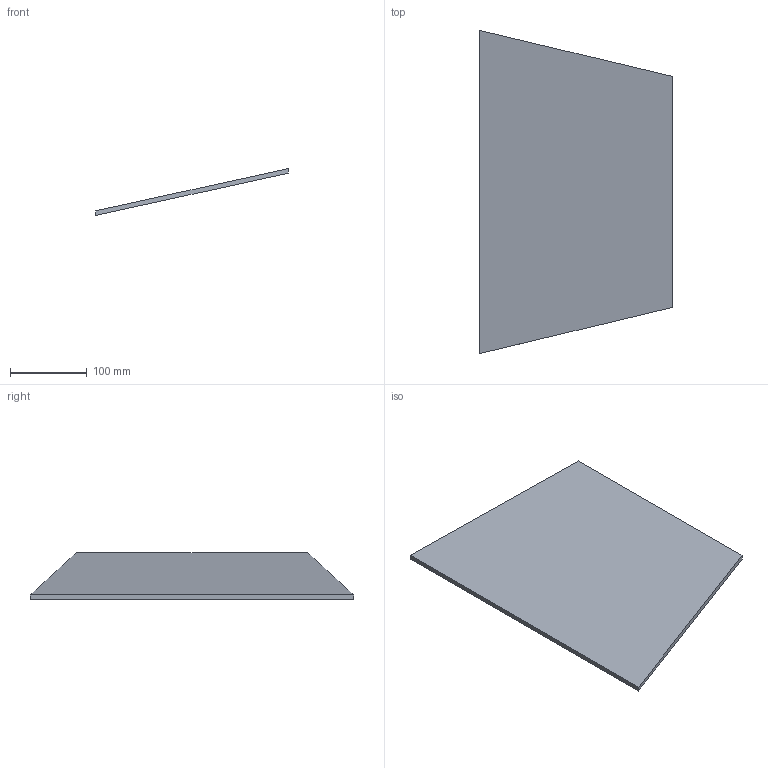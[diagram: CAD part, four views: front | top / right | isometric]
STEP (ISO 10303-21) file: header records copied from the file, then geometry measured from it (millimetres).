
FILE_DESCRIPTION(('Open CASCADE Model'),'2;1');
FILE_NAME('Open CASCADE Shape Model','2026-10-16T18:03:45',('Author'),( 'Open CASCADE'),'Open CASCADE STEP processor 7.8','Open CASCADE 7.8' ,'Unknown');
FILE_SCHEMA(('AUTOMOTIVE_DESIGN { 1 0 10303 214 1 1 1 1 }'));
Length unit declared in the file: millimetre
Products named in the file (1): Open CASCADE STEP translator 7.8 10
Bounding box: 250 x 420 x 61 mm (x, y, z)
Volume: 540000 mm3; surface area: 191709.7 mm2
Topology: 1 solids, 1 shells, 6 faces, 12 edges, 8 vertices
Faces by surface type: plane 6
Entity records: 322 total; most frequent: CARTESIAN_POINT 51, DIRECTION 50, LINE 36, VECTOR 36, ORIENTED_EDGE 24, PCURVE 24, DEFINITIONAL_REPRESENTATION 24, EDGE_CURVE 12
